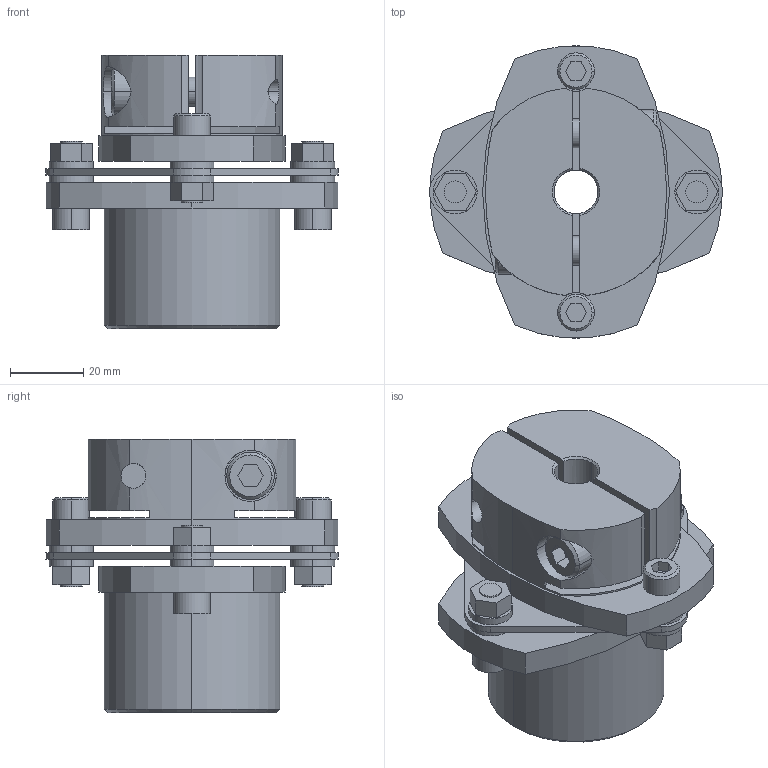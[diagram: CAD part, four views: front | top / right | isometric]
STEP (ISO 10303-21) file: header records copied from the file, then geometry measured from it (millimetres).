
FILE_DESCRIPTION((''),'2;1');
FILE_NAME('LCS-80M-16L亊12B.stp','2015-10-27T19:12:17',(''),(''),'AutoCAD STEP 2000i','AutoCAD 2000i',', , ');
FILE_SCHEMA(('CONFIG_CONTROL_DESIGN'));
Length unit declared in the file: millimetre
Products named in the file (6): LCS-80M-16L×15B; 忣兜1; LC80M-L016; LC80-B015-1; LC80-B015; LCS80-ITA
Assembly tree (5 placements, depth 2):
  LCS-80M-16L×15B
    忣兜1
    LC80M-L016
    LC80-B015-1
    LC80-B015
    LCS80-ITA
Bounding box: 80 x 79.95 x 74.75 mm (x, y, z)
Volume: 149059 mm3; surface area: 42230.1 mm2
Topology: 1 solids, 1 shells, 230 faces, 580 edges, 382 vertices
Faces by surface type: plane 115, cylinder 96, cone 19
Entity records: 7413 total; most frequent: CARTESIAN_POINT 1514, DIRECTION 1252, ORIENTED_EDGE 1160, EDGE_CURVE 580, AXIS2_PLACEMENT_3D 458, VERTEX_POINT 382, VECTOR 336, LINE 336
